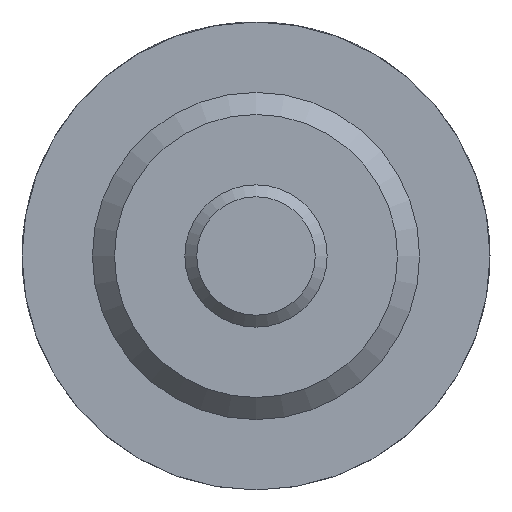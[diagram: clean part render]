
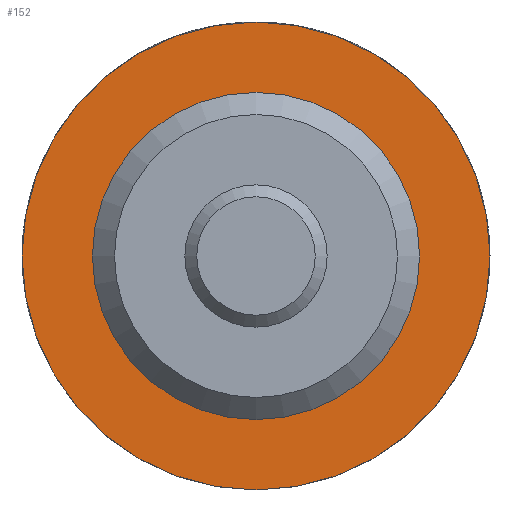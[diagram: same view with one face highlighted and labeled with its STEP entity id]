
A CAD part, left-side view. The second image highlights one B-rep face of the part: STEP entity #152.
In plain terms, the highlighted planar face has unit normal (-1, 0, 0).
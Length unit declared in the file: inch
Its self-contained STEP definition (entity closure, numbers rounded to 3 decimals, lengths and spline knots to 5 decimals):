
#152 = ADVANCED_FACE( '', ( #327, #328 ), #329, .F. );
#327 = FACE_OUTER_BOUND( '', #554, .T. );
#328 = FACE_BOUND( '', #555, .T. );
#329 = PLANE( '', #556 );
#554 = EDGE_LOOP( '', ( #821 ) );
#555 = EDGE_LOOP( '', ( #822 ) );
#556 = AXIS2_PLACEMENT_3D( '', #823, #824, #825 );
#821 = ORIENTED_EDGE( '', *, *, #1192, .F. );
#822 = ORIENTED_EDGE( '', *, *, #1175, .T. );
#823 = CARTESIAN_POINT( '', ( 0.375, 0.2185, 0. ) );
#824 = DIRECTION( '', ( 1., 0., 0. ) );
#825 = DIRECTION( '', ( 0., 0., -1. ) );
#1175 = EDGE_CURVE( '', #1352, #1352, #1353, .T. );
#1192 = EDGE_CURVE( '', #1381, #1381, #1382, .T. );
#1352 = VERTEX_POINT( '', #1643 );
#1353 = CIRCLE( '', #1644, 0.2185 );
#1381 = VERTEX_POINT( '', #1687 );
#1382 = CIRCLE( '', #1688, 0.3125 );
#1643 = CARTESIAN_POINT( '', ( 0.375, 0., -0.2185 ) );
#1644 = AXIS2_PLACEMENT_3D( '', #2014, #2015, #2016 );
#1687 = CARTESIAN_POINT( '', ( 0.375, 0., -0.3125 ) );
#1688 = AXIS2_PLACEMENT_3D( '', #2032, #2033, #2034 );
#2014 = CARTESIAN_POINT( '', ( 0.375, 0., 0. ) );
#2015 = DIRECTION( '', ( 1., 0., 0. ) );
#2016 = DIRECTION( '', ( 0., 0., -1. ) );
#2032 = CARTESIAN_POINT( '', ( 0.375, 0., 0. ) );
#2033 = DIRECTION( '', ( 1., 0., 0. ) );
#2034 = DIRECTION( '', ( 0., 0., -1. ) );
